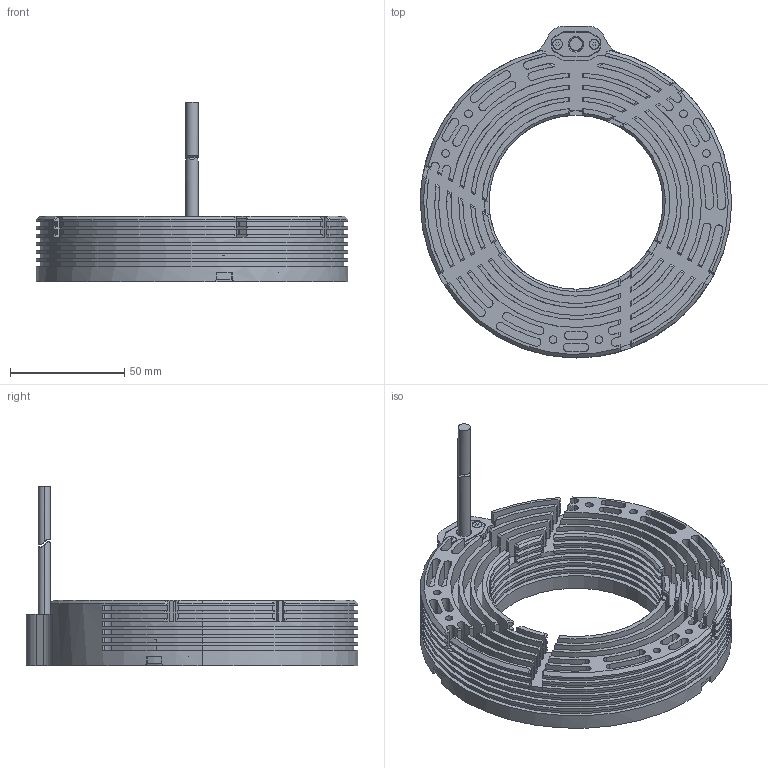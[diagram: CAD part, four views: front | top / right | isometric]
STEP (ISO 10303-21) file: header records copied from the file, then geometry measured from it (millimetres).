
FILE_DESCRIPTION (( 'STEP AP214' ), '1' );
FILE_NAME ('M-HPRING-EC-xxx-xx-DO_CLIENT.STEP', '2026-06-04T13:02:53', ( '' ), ( '' ), 'SwSTEP 2.0', 'SolidWorks 2025', '' );
FILE_SCHEMA (( 'AUTOMOTIVE_DESIGN' ));
Length unit declared in the file: millimetre
Products named in the file (1): M-HPRING-EC-xxx-xx-DO_CLIENT
Bounding box: 136 x 145 x 78.45 mm (x, y, z)
Volume: 215705.8 mm3; surface area: 84078.7 mm2
Topology: 2 solids, 5 shells, 779 faces, 2111 edges, 1399 vertices
Faces by surface type: plane 396, cylinder 353, cone 16, bspline 14
Entity records: 25280 total; most frequent: CARTESIAN_POINT 5417, ORIENTED_EDGE 4222, DIRECTION 4197, EDGE_CURVE 2111, AXIS2_PLACEMENT_3D 1543, VERTEX_POINT 1399, LINE 1111, VECTOR 1111
